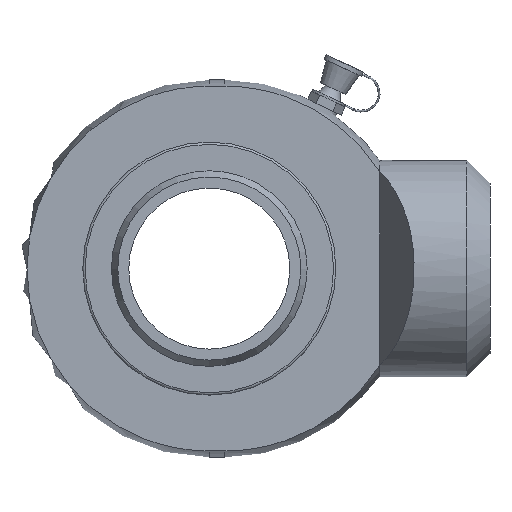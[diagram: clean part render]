
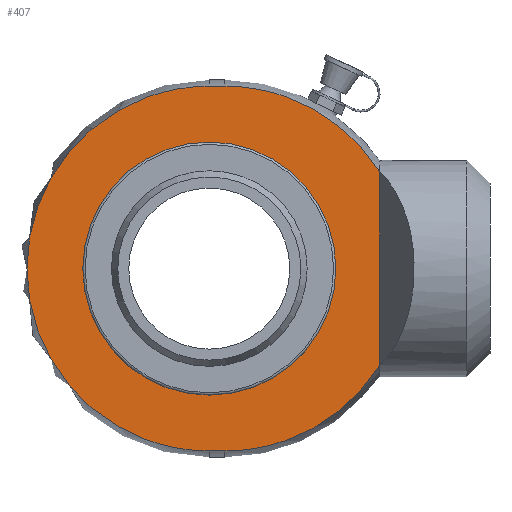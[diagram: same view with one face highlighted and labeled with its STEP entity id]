
A CAD part, front view. The second image highlights one B-rep face of the part: STEP entity #407.
In plain terms, the highlighted planar face has unit normal (0, -1, 0).
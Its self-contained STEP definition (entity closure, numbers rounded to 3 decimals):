
#407 = ADVANCED_FACE( '', ( #1194, #1195 ), #1196, .F. );
#1194 = FACE_OUTER_BOUND( '', #1500, .T. );
#1195 = FACE_BOUND( '', #1501, .T. );
#1196 = PLANE( '', #1502 );
#1500 = EDGE_LOOP( '', ( #1789, #1790, #1791, #1792, #1793, #1794 ) );
#1501 = EDGE_LOOP( '', ( #1795 ) );
#1502 = AXIS2_PLACEMENT_3D( '', #1796, #1797, #1798 );
#1789 = ORIENTED_EDGE( '', *, *, #2044, .F. );
#1790 = ORIENTED_EDGE( '', *, *, #2058, .F. );
#1791 = ORIENTED_EDGE( '', *, *, #2035, .T. );
#1792 = ORIENTED_EDGE( '', *, *, #2057, .T. );
#1793 = ORIENTED_EDGE( '', *, *, #2040, .T. );
#1794 = ORIENTED_EDGE( '', *, *, #2056, .F. );
#1795 = ORIENTED_EDGE( '', *, *, #2034, .F. );
#1796 = CARTESIAN_POINT( '', ( -9.321, -10.5, 297.773 ) );
#1797 = DIRECTION( '', ( 0., 1., 0. ) );
#1798 = DIRECTION( '', ( -1., 0., 0. ) );
#2034 = EDGE_CURVE( '', #2334, #2334, #2335, .F. );
#2035 = EDGE_CURVE( '', #2336, #2337, #2338, .F. );
#2040 = EDGE_CURVE( '', #2347, #2345, #2348, .F. );
#2044 = EDGE_CURVE( '', #2353, #2355, #2356, .F. );
#2056 = EDGE_CURVE( '', #2355, #2345, #2373, .T. );
#2057 = EDGE_CURVE( '', #2337, #2347, #2374, .T. );
#2058 = EDGE_CURVE( '', #2336, #2353, #2375, .T. );
#2334 = VERTEX_POINT( '', #2647 );
#2335 = CIRCLE( '', #2648, 27.5 );
#2336 = VERTEX_POINT( '', #2649 );
#2337 = VERTEX_POINT( '', #2650 );
#2338 = CIRCLE( '', #2651, 39.633 );
#2345 = VERTEX_POINT( '', #2658 );
#2347 = VERTEX_POINT( '', #2660 );
#2348 = CIRCLE( '', #2661, 39.633 );
#2353 = VERTEX_POINT( '', #2666 );
#2355 = VERTEX_POINT( '', #2668 );
#2356 = CIRCLE( '', #2669, 39.633 );
#2373 = LINE( '', #2689, #2690 );
#2374 = LINE( '', #2691, #2692 );
#2375 = LINE( '', #2693, #2694 );
#2647 = CARTESIAN_POINT( '', ( -73.821, -10.5, 0. ) );
#2648 = AXIS2_PLACEMENT_3D( '', #2888, #2889, #2890 );
#2649 = CARTESIAN_POINT( '', ( -9.321, -10.5, 21.024 ) );
#2650 = CARTESIAN_POINT( '', ( -42.918, -10.5, 39.633 ) );
#2651 = AXIS2_PLACEMENT_3D( '', #2891, #2892, #2893 );
#2658 = CARTESIAN_POINT( '', ( -46.321, -10.5, -39.633 ) );
#2660 = CARTESIAN_POINT( '', ( -46.321, -10.5, 39.633 ) );
#2661 = AXIS2_PLACEMENT_3D( '', #2906, #2907, #2908 );
#2666 = CARTESIAN_POINT( '', ( -9.321, -10.5, -21.024 ) );
#2668 = CARTESIAN_POINT( '', ( -42.918, -10.5, -39.633 ) );
#2669 = AXIS2_PLACEMENT_3D( '', #2918, #2919, #2920 );
#2689 = CARTESIAN_POINT( '', ( -110.824, -10.5, -39.633 ) );
#2690 = VECTOR( '', #2948, 1000. );
#2691 = CARTESIAN_POINT( '', ( -110.824, -10.5, 39.633 ) );
#2692 = VECTOR( '', #2949, 1000. );
#2693 = CARTESIAN_POINT( '', ( -9.321, -10.5, 297.773 ) );
#2694 = VECTOR( '', #2950, 1000. );
#2888 = CARTESIAN_POINT( '', ( -46.321, -10.5, 0. ) );
#2889 = DIRECTION( '', ( 0., 1., 0. ) );
#2890 = DIRECTION( '', ( -1., 0., 0. ) );
#2891 = CARTESIAN_POINT( '', ( -42.918, -10.5, 0. ) );
#2892 = DIRECTION( '', ( 0., 1., 0. ) );
#2893 = DIRECTION( '', ( -1., 0., 0. ) );
#2906 = CARTESIAN_POINT( '', ( -46.321, -10.5, 0. ) );
#2907 = DIRECTION( '', ( 0., 1., 0. ) );
#2908 = DIRECTION( '', ( -1., 0., 0. ) );
#2918 = CARTESIAN_POINT( '', ( -42.918, -10.5, 0. ) );
#2919 = DIRECTION( '', ( 0., -1., 0. ) );
#2920 = DIRECTION( '', ( 1., 0., 0. ) );
#2948 = DIRECTION( '', ( -1., 0., 0. ) );
#2949 = DIRECTION( '', ( -1., 0., 0. ) );
#2950 = DIRECTION( '', ( 0., 0., -1. ) );
